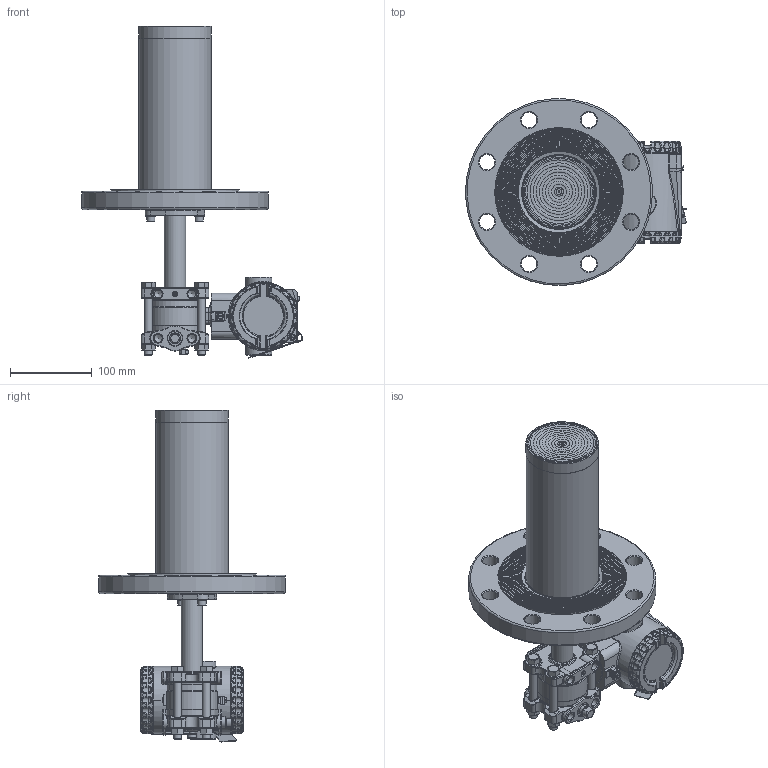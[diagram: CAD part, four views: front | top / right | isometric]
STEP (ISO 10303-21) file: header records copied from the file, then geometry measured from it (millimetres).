
FILE_DESCRIPTION(/* description */ (''),/* implementation_level */ '2;1');
FILE_NAME(/* name */ 'F:\Area\Desenvolvimento_2\Projects\Sensor\projetos\LD400-3d\dimensionais 3D clientes\LD400L\LD400L 4-150 RF ext 200 ref 1-4NPT purga acima.stp',/* time_stamp */ '2023-02-23T16:37:37-03:00',/* author */ ('inventor02'),/* organization */ (''),/* preprocessor_version */ 'ST-DEVELOPER v17',/* originating_system */ 'Autodesk Inventor 2019',/* authorisation */ '');
FILE_SCHEMA (('CONFIG_CONTROL_DESIGN'));
Products named in the file (41): LD30XL 4-150 RF ext 200 ref 1-4NPT purga acima; 204-0301-L-4 150 RF ext 200 purga acima; nivel fx3 com baixa diferencial 1-4NPT purga acima; involucro fx0-3 apos a usinagem final; flange diferencial std purga; 101-C-7484-01 flange selo nivel VR; 201-A-0504-tubo união teste 1; bujao 1-4NPT; Sangria; Porca 3-8 x 16 UNC; Paraf. 3-8 x 16 UNC; adaptação tubo x flanges 1-1-2 a 4pol; 101-B-0161-anel cortado do tubo - teste1; 101-B-0162-flange fixação tubo; ANSI B18.3.1M - M6x1 x 16; DIN 127 - A 6; flange 4 150 ext 200; 096-B-0212-15; 101-B-7702-02 ext 4-200; 101-C-0114-11; Carcaça 400 com tampas e plaqueta sem letras; 101-D-0845-05 carcaça LD400 sem letras; 101-B-3614-03-tampa 400 sem letras; Tampa visor 400 montada sem letras; 101-B-3612-05 tampa visor 400 sem letras; 101-A-6107; oring 2034; 00034775-0; WHW_250; DIN 915 - M6 x 10; Chapa aterramento externo; 201-A-1771-02 inserto terra recartilhado; AS 1969 - ST4,2; ISO 1207 - M4 x 8; ANSI B18.3.1M - M4x0,7 x 8; Subconjunto plaqueta 400; plaqueta 400 em branco; Parafuso da Plaqueta; Rebite da Plaqueta; 096-A-0169-03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
Assembly tree (50 placements, depth 4):
  LD30XL 4-150 RF ext 200 ref 1-4NPT purga acima
    204-0301-L-4 150 RF ext 200 purga acima
      nivel fx3 com baixa diferencial 1-4NPT purga acima
        involucro fx0-3 apos a usinagem final
        flange diferencial std purga
        101-C-7484-01 flange selo nivel VR
        201-A-0504-tubo união teste 1
        DIN 915 - M6 x 10
        bujao 1-4NPT
        Sangria
        Porca 3-8 x 16 UNC  x4
        Paraf. 3-8 x 16 UNC  x4
      adaptação tubo x flanges 1-1-2 a 4pol
        101-B-0161-anel cortado do tubo - teste1
        101-B-0162-flange fixação tubo
        ANSI B18.3.1M - M6x1 x 16  x2
        DIN 127 - A 6  x2
      flange 4 150 ext 200
        096-B-0212-15
        101-B-7702-02 ext 4-200
        101-C-0114-11
    Carcaça 400 com tampas e plaqueta sem letras
      101-D-0845-05 carcaça LD400 sem letras
      101-B-3614-03-tampa 400 sem letras
      Tampa visor 400 montada sem letras
        101-B-3612-05 tampa visor 400 sem letras
        101-A-6107
        oring 2034
        00034775-0
        WHW_250
      DIN 915 - M6 x 10
      Chapa aterramento externo
      201-A-1771-02 inserto terra recartilhado
      AS 1969 - ST4,2
      ISO 1207 - M4 x 8
      ANSI B18.3.1M - M4x0,7 x 8  x2
      Subconjunto plaqueta 400
        plaqueta 400 em branco
        Parafuso da Plaqueta
        Rebite da Plaqueta
        096-A-0169-03
        101-A-0502-01
Bounding box: 269.94 x 228.38 x 405.72 mm (x, y, z)
Volume: 1871377.7 mm3; surface area: 481838.5 mm2
Topology: 43 solids, 43 shells, 2834 faces, 6836 edges, 4113 vertices
Faces by surface type: plane 751, cylinder 668, bspline 604, torus 505, cone 230, sphere 76
Full cylindrical faces by diameter (mm): 2 x4, 2.1 x1, 2.2 x1, 2.459 x3, 2.5 x1, 2.7 x1, 2.8 x1, 3 x4, 3.242 x3, 3.5 x1, 3.571 x1, 4 x5, 4.3 x2, 4.4 x1, 4.917 x4, 5 x1, 5.5 x3, 6 x6, 6.1 x2, 6.2 x1, 6.647 x1, 7 x5, 7.6 x2, 7.798 x4, 8 x1, 9.525 x4, 9.728 x6, 10 x2, 10.5 x8, 10.719 x2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
Entity records: 100426 total; most frequent: CARTESIAN_POINT 37345, DIRECTION 13072, ORIENTED_EDGE 12912, EDGE_CURVE 6456, AXIS2_PLACEMENT_3D 5619, VERTEX_POINT 3919, CIRCLE 3272, EDGE_LOOP 2907
